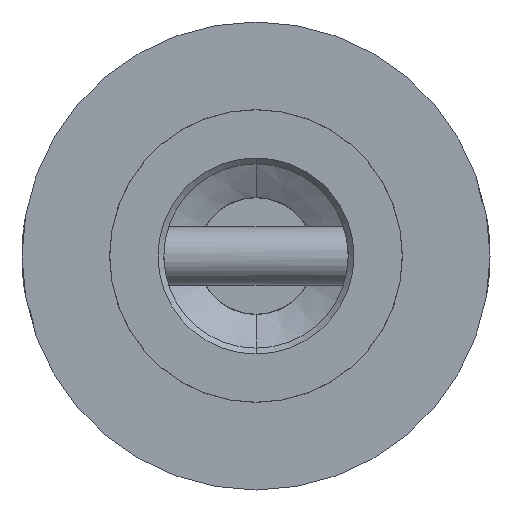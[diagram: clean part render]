
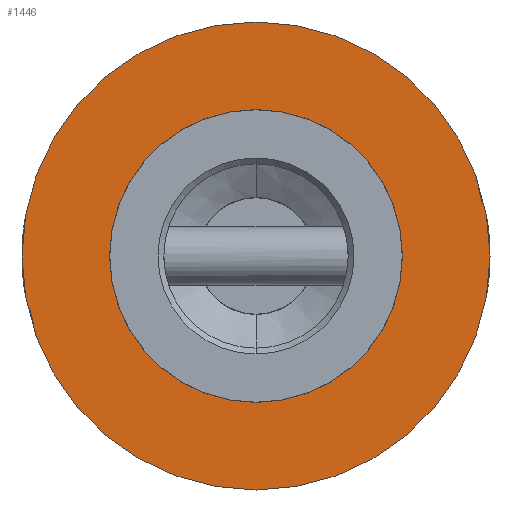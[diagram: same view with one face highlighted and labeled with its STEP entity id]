
A CAD part, front view. The second image highlights one B-rep face of the part: STEP entity #1446.
In plain terms, the highlighted planar face has unit normal (0, -1, 0).
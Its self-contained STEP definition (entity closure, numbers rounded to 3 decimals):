
#34 = ORIENTED_EDGE ( 'NONE', *, *, #2789, .F. ) ;
#46 = CIRCLE ( 'NONE', #3296, 5.005 ) ;
#157 = CARTESIAN_POINT ( 'NONE',  ( 0., -400., 0. ) ) ;
#223 = CARTESIAN_POINT ( 'NONE',  ( 0., -400., -5.005 ) ) ;
#282 = FACE_BOUND ( 'NONE', #2774, .T. ) ;
#392 = CARTESIAN_POINT ( 'NONE',  ( 0., -400., 0. ) ) ;
#420 = PLANE ( 'NONE',  #2344 ) ;
#430 = DIRECTION ( 'NONE',  ( 0., -1., 0. ) ) ;
#459 = DIRECTION ( 'NONE',  ( 0., -1., 0. ) ) ;
#567 = DIRECTION ( 'NONE',  ( 0., -1., 0. ) ) ;
#576 = DIRECTION ( 'NONE',  ( 0., 0., -1. ) ) ;
#637 = DIRECTION ( 'NONE',  ( 0., 0., -1. ) ) ;
#720 = CARTESIAN_POINT ( 'NONE',  ( 0., -400., 0. ) ) ;
#733 = EDGE_CURVE ( 'NONE', #1313, #1496, #1416, .T. ) ;
#1202 = DIRECTION ( 'NONE',  ( 0., 0., -1. ) ) ;
#1269 = ORIENTED_EDGE ( 'NONE', *, *, #1825, .T. ) ;
#1290 = CIRCLE ( 'NONE', #1384, 5.005 ) ;
#1313 = VERTEX_POINT ( 'NONE', #1631 ) ;
#1384 = AXIS2_PLACEMENT_3D ( 'NONE', #3113, #3108, #3096 ) ;
#1416 = CIRCLE ( 'NONE', #3268, 8. ) ;
#1446 = ADVANCED_FACE ( 'NONE', ( #282, #1875 ), #420, .T. ) ;
#1460 = ORIENTED_EDGE ( 'NONE', *, *, #733, .T. ) ;
#1496 = VERTEX_POINT ( 'NONE', #1694 ) ;
#1513 = CIRCLE ( 'NONE', #2806, 8. ) ;
#1593 = EDGE_LOOP ( 'NONE', ( #1269, #1460 ) ) ;
#1631 = CARTESIAN_POINT ( 'NONE',  ( 0., -400., 8. ) ) ;
#1694 = CARTESIAN_POINT ( 'NONE',  ( 0., -400., -8. ) ) ;
#1708 = DIRECTION ( 'NONE',  ( 0., 0., -1. ) ) ;
#1717 = DIRECTION ( 'NONE',  ( 0., -1., 0. ) ) ;
#1729 = CARTESIAN_POINT ( 'NONE',  ( 0., -400., 0. ) ) ;
#1825 = EDGE_CURVE ( 'NONE', #1496, #1313, #1513, .T. ) ;
#1875 = FACE_OUTER_BOUND ( 'NONE', #1593, .T. ) ;
#2032 = VERTEX_POINT ( 'NONE', #2776 ) ;
#2344 = AXIS2_PLACEMENT_3D ( 'NONE', #157, #430, #637 ) ;
#2547 = VERTEX_POINT ( 'NONE', #223 ) ;
#2774 = EDGE_LOOP ( 'NONE', ( #2828, #34 ) ) ;
#2776 = CARTESIAN_POINT ( 'NONE',  ( 0., -400., 5.005 ) ) ;
#2789 = EDGE_CURVE ( 'NONE', #2032, #2547, #1290, .T. ) ;
#2806 = AXIS2_PLACEMENT_3D ( 'NONE', #392, #567, #576 ) ;
#2828 = ORIENTED_EDGE ( 'NONE', *, *, #3286, .F. ) ;
#3096 = DIRECTION ( 'NONE',  ( 0., 0., -1. ) ) ;
#3108 = DIRECTION ( 'NONE',  ( 0., -1., 0. ) ) ;
#3113 = CARTESIAN_POINT ( 'NONE',  ( 0., -400., 0. ) ) ;
#3268 = AXIS2_PLACEMENT_3D ( 'NONE', #1729, #1717, #1708 ) ;
#3286 = EDGE_CURVE ( 'NONE', #2547, #2032, #46, .T. ) ;
#3296 = AXIS2_PLACEMENT_3D ( 'NONE', #720, #459, #1202 ) ;
